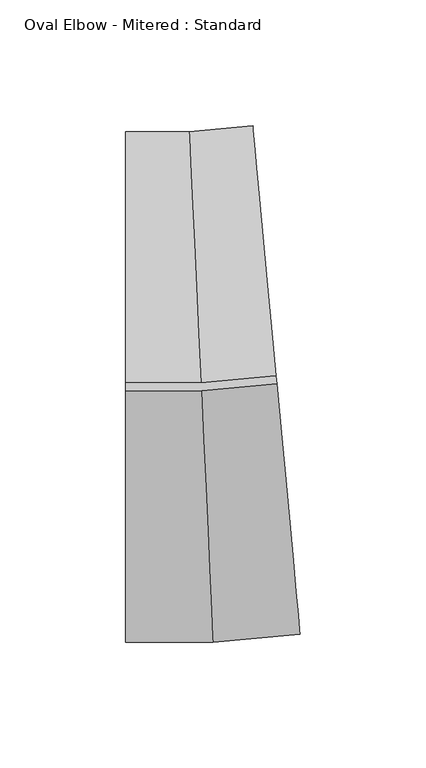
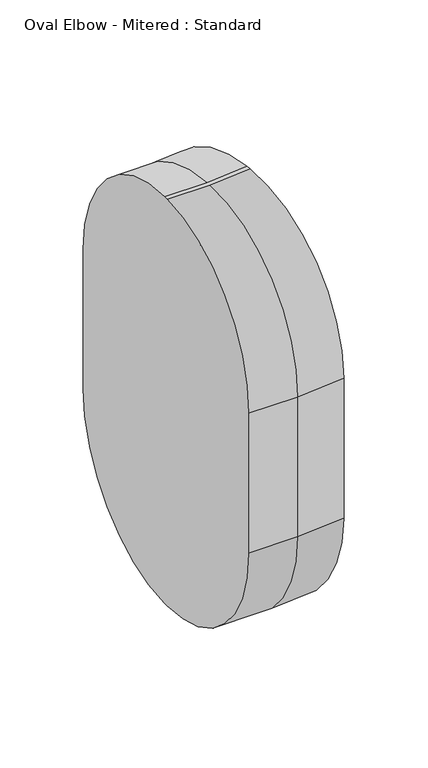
"""IFC4 building model written with IfcOpenShell, lengths in millimetres: duct fitting geometry, Oval Elbow - Mitered : Standard."""

from ifc_helpers import new_model, si_unit, frame, origin, place, context, project, spatial, circle_curve, ellipse_curve, source, transform, mapped, element, save
from ifc_brep_helpers import plane_surface, cylinder_surface, advanced_brep


def oval_elbow_mitered_standard_5b12be7a(model_context):
    return source(origin(), model_context, "Body", "AdvancedBrep", [
        advanced_brep(
        [(-30.1216062, -1.5875, 152.4), (-30.1216062, 1.5875, 152.4), (-30.1216062, 101.6, 52.3875), (-30.1216062, 101.6, -52.3875), (-30.1216062, 1.5875, -152.4), (-30.1216062, -1.5875, -152.4), (-30.1216062, -101.6, -52.3875), (-30.1216062, -101.6, 52.3875), (0.0737751, -1.5875, 152.4), (30.1390119, 1.2129617, 152.4), (29.8445475, 4.3742772, 152.4), (-0.0737751, 1.5875, 152.4), (-4.7216062, 101.6, 52.3875), (-4.7216062, 101.6, -52.3875), (-0.0737751, 1.5875, -152.4), (29.8445475, 4.3742772, -152.4), (30.1390119, 1.2129617, -152.4), (0.0737751, -1.5875, -152.4), (4.7216062, -101.6, -52.3875), (4.7216062, -101.6, 52.3875), (39.4146415, -98.3684766, 52.3875), (39.4146415, -98.3684766, -52.3875), (20.5689178, 103.9557155, -52.3875), (20.5689178, 103.9557155, 52.3875)],
        [
            (0, 1),
            (1, 2, circle_curve(frame((-30.1216062, 1.5875, 52.3875), z_axis=(-1.0, 0.0, 0.0), x_axis=(0.0, 1.0, 0.0)), 100.0125)),
            (2, 3),
            (3, 4, circle_curve(frame((-30.1216062, 1.5875, -52.3875), z_axis=(-1.0, 0.0, 0.0), x_axis=(0.0, 1.0, 0.0)), 100.0125)),
            (4, 5),
            (5, 6, circle_curve(frame((-30.1216062, -1.5875, -52.3875), z_axis=(-1.0, 0.0, 0.0), x_axis=(0.0, 1.0, 0.0)), 100.0125)),
            (6, 7),
            (7, 0, circle_curve(frame((-30.1216062, -1.5875, 52.3875), z_axis=(-1.0, 0.0, 0.0), x_axis=(0.0, 1.0, 0.0)), 100.0125)),
            (0, 8),
            (8, 9),
            (9, 10),
            (10, 11),
            (11, 1),
            (11, 12, ellipse_curve(frame((-0.0737751, 1.5875, 52.3875), z_axis=(-0.9989218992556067, -0.04642239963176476, 0.0), x_axis=(-0.046422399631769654, 0.9989218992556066, 0.0)), 100.1204399, 100.0125)),
            (12, 2),
            (12, 13),
            (13, 3),
            (13, 14, ellipse_curve(frame((-0.0737751, 1.5875, -52.3875), z_axis=(-0.9989218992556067, -0.04642239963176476, 0.0), x_axis=(-0.046422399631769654, 0.9989218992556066, 0.0)), 100.1204399, 100.0125)),
            (14, 4),
            (14, 15),
            (15, 16),
            (16, 17),
            (17, 5),
            (17, 18, ellipse_curve(frame((0.0737751, -1.5875, -52.3875), z_axis=(-0.9989218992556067, -0.04642239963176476, 0.0), x_axis=(-0.046422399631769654, 0.9989218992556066, 0.0)), 100.1204399, 100.0125)),
            (18, 6),
            (18, 19),
            (19, 7),
            (19, 8, ellipse_curve(frame((0.0737751, -1.5875, 52.3875), z_axis=(-0.9989218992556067, -0.04642239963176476, 0.0), x_axis=(-0.046422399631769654, 0.9989218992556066, 0.0)), 100.1204399, 100.0125)),
            (9, 20, circle_curve(frame((30.1390119, 1.2129617, 52.3875), z_axis=(0.9956899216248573, 0.09274470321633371, 0.0), x_axis=(-0.09274470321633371, 0.9956899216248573, 0.0)), 100.0125)),
            (20, 21),
            (21, 16, circle_curve(frame((30.1390119, 1.2129617, -52.3875), z_axis=(0.9956899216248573, 0.09274470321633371, 0.0), x_axis=(-0.09274470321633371, 0.9956899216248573, 0.0)), 100.0125)),
            (15, 22, circle_curve(frame((29.8445475, 4.3742772, -52.3875), z_axis=(0.9956899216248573, 0.09274470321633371, 0.0), x_axis=(-0.09274470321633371, 0.9956899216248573, 0.0)), 100.0125)),
            (22, 23),
            (23, 10, circle_curve(frame((29.8445475, 4.3742772, 52.3875), z_axis=(0.9956899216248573, 0.09274470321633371, 0.0), x_axis=(-0.09274470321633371, 0.9956899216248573, 0.0)), 100.0125)),
            (23, 12),
            (22, 13),
            (21, 18),
            (20, 19),
        ],
        [
            plane_surface(frame((-30.1216062, 0.0, 0.0), z_axis=(-1.0, 0.0, 0.0), x_axis=(0.0, 0.0, 1.0))),
            plane_surface(frame((-30.1216062, -1.5875, 152.4), z_axis=(0.0, 0.0, 1.0), x_axis=(1.0, 0.0, 0.0))),
            cylinder_surface(frame((-30.1216062, 1.5875, 52.3875), z_axis=(-1.0, 0.0, 0.0), x_axis=(0.0, 1.0, 0.0)), 100.0125),
            plane_surface(frame((-30.1216062, 101.6, 52.3875), z_axis=(0.0, 1.0, 0.0), x_axis=(1.0, 0.0, 0.0))),
            cylinder_surface(frame((-30.1216062, 1.5875, -52.3875), z_axis=(-1.0, 0.0, 0.0), x_axis=(0.0, 1.0, 0.0)), 100.0125),
            plane_surface(frame((-30.1216062, 1.5875, -152.4), z_axis=(0.0, 0.0, -1.0), x_axis=(1.0, 0.0, 0.0))),
            cylinder_surface(frame((-30.1216062, -1.5875, -52.3875), z_axis=(-1.0, 0.0, 0.0), x_axis=(0.0, 1.0, 0.0)), 100.0125),
            plane_surface(frame((-30.1216062, -101.6, -52.3875), z_axis=(0.0, -1.0, 0.0), x_axis=(1.0, 0.0, 0.0))),
            cylinder_surface(frame((-30.1216062, -1.5875, 52.3875), z_axis=(-1.0, 0.0, 0.0), x_axis=(0.0, 1.0, 0.0)), 100.0125),
            plane_surface(frame((29.9917797, 2.7936194, 0.0), z_axis=(0.9956899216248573, 0.09274470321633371, 0.0), x_axis=(0.0, 0.0, 1.0))),
            cylinder_surface(frame((-0.1472322, 1.5806578, 52.3875), z_axis=(-0.9956899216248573, -0.09274470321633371, 0.0), x_axis=(-0.09274470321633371, 0.9956899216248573, 0.0)), 100.0125),
            plane_surface(frame((-4.7216062, 101.6, 52.3875), z_axis=(-0.09274470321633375, 0.9956899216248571, 0.0), x_axis=(0.9956899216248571, 0.09274470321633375, 0.0))),
            cylinder_surface(frame((-0.1472322, 1.5806578, -52.3875), z_axis=(-0.9956899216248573, -0.09274470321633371, 0.0), x_axis=(-0.09274470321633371, 0.9956899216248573, 0.0)), 100.0125),
            cylinder_surface(frame((0.1472322, -1.5806578, -52.3875), z_axis=(-0.9956899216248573, -0.09274470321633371, 0.0), x_axis=(-0.09274470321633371, 0.9956899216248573, 0.0)), 100.0125),
            plane_surface(frame((4.7216062, -101.6, -52.3875), z_axis=(0.09274470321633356, -0.9956899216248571, 0.0), x_axis=(0.9956899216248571, 0.09274470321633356, 0.0))),
            cylinder_surface(frame((0.1472322, -1.5806578, 52.3875), z_axis=(-0.9956899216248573, -0.09274470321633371, 0.0), x_axis=(-0.09274470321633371, 0.9956899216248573, 0.0)), 100.0125),
        ],
        [
            (0, [[1, 2, 3, 4, 5, 6, 7, 8]]),
            (1, [[-1, 9, 10, 11, 12, 13]]),
            (2, [[-2, -13, 14, 15]]),
            (3, [[-3, -15, 16, 17]]),
            (4, [[-4, -17, 18, 19]]),
            (5, [[-5, -19, 20, 21, 22, 23]]),
            (6, [[-6, -23, 24, 25]]),
            (7, [[-7, -25, 26, 27]]),
            (8, [[-8, -27, 28, -9]]),
            (9, [[29, 30, 31, -21, 32, 33, 34, -11]]),
            (10, [[-14, -12, -34, 35]]),
            (11, [[-16, -35, -33, 36]]),
            (12, [[-18, -36, -32, -20]]),
            (13, [[-24, -22, -31, 37]]),
            (14, [[-26, -37, -30, 38]]),
            (15, [[-28, -38, -29, -10]]),
        ],
    ),
    ])


if __name__ == "__main__":
    model = new_model("IFC4")
    model_context = context("Model", 3, world=origin())
    ifc_project = project(units=[si_unit("LENGTHUNIT", "METRE", prefix="MILLI")], contexts=[model_context])
    site = spatial("IfcSite", under=ifc_project)
    building = spatial("IfcBuilding", under=site)
    placement = place(None, origin())
    oval_elbow_mitered_standard_shape = oval_elbow_mitered_standard_5b12be7a(model_context)
    element("IfcDuctFitting", 1, ObjectType="Oval Elbow - Mitered : Standard", at=placement, inside=building, context=model_context, shape_type="MappedRepresentation", body=[
        mapped(oval_elbow_mitered_standard_shape, transform((0.0, 0.0, 0.0), x_axis=(1.0, 0.0, 0.0), y_axis=(0.0, 1.0, 0.0), z_axis=(0.0, 0.0, 1.0))),
    ])
    save(model, "model.ifc")
